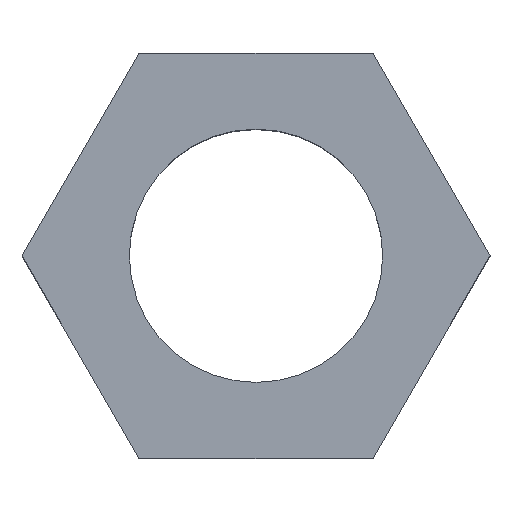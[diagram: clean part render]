
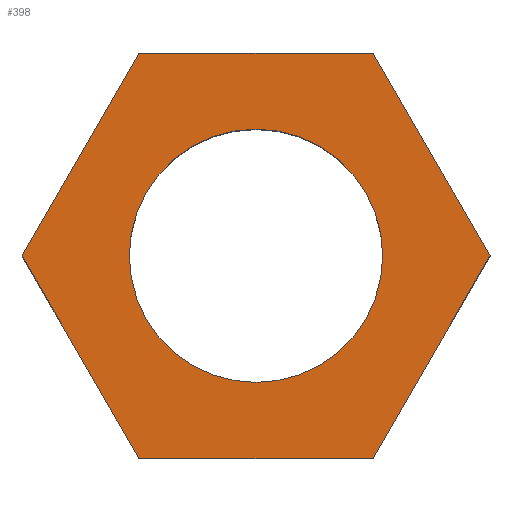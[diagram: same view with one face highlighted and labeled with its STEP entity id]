
A CAD part, top view. The second image highlights one B-rep face of the part: STEP entity #398.
In plain terms, the highlighted planar face has unit normal (0, 0, 1).
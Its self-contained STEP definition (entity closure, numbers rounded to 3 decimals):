
#24 = VERTEX_POINT('',#25);
#25 = CARTESIAN_POINT('',(4.619,0.,5.));
#32 = PLANE('',#33);
#33 = AXIS2_PLACEMENT_3D('',#34,#35,#36);
#34 = CARTESIAN_POINT('',(4.619,0.,0.));
#35 = DIRECTION('',(-0.866,-0.5,0.));
#36 = DIRECTION('',(-0.5,0.866,0.));
#44 = PLANE('',#45);
#45 = AXIS2_PLACEMENT_3D('',#46,#47,#48);
#46 = CARTESIAN_POINT('',(2.309,-4.,0.));
#47 = DIRECTION('',(-0.866,0.5,0.));
#48 = DIRECTION('',(0.5,0.866,0.));
#56 = EDGE_CURVE('',#24,#57,#59,.T.);
#57 = VERTEX_POINT('',#58);
#58 = CARTESIAN_POINT('',(2.309,4.,5.));
#59 = SURFACE_CURVE('',#60,(#64,#71),.PCURVE_S1.);
#60 = LINE('',#61,#62);
#61 = CARTESIAN_POINT('',(4.619,0.,5.));
#62 = VECTOR('',#63,1.);
#63 = DIRECTION('',(-0.5,0.866,0.));
#64 = PCURVE('',#32,#65);
#65 = DEFINITIONAL_REPRESENTATION('',(#66),#70);
#66 = LINE('',#67,#68);
#67 = CARTESIAN_POINT('',(0.,-5.));
#68 = VECTOR('',#69,1.);
#69 = DIRECTION('',(1.,0.));
#70 = ( GEOMETRIC_REPRESENTATION_CONTEXT(2) 
PARAMETRIC_REPRESENTATION_CONTEXT() REPRESENTATION_CONTEXT('2D SPACE',''
  ) );
#71 = PCURVE('',#72,#77);
#72 = PLANE('',#73);
#73 = AXIS2_PLACEMENT_3D('',#74,#75,#76);
#74 = CARTESIAN_POINT('',(0.,0.,5.));
#75 = DIRECTION('',(0.,0.,1.));
#76 = DIRECTION('',(1.,0.,-0.));
#77 = DEFINITIONAL_REPRESENTATION('',(#78),#82);
#78 = LINE('',#79,#80);
#79 = CARTESIAN_POINT('',(4.619,0.));
#80 = VECTOR('',#81,1.);
#81 = DIRECTION('',(-0.5,0.866));
#82 = ( GEOMETRIC_REPRESENTATION_CONTEXT(2) 
PARAMETRIC_REPRESENTATION_CONTEXT() REPRESENTATION_CONTEXT('2D SPACE',''
  ) );
#100 = PLANE('',#101);
#101 = AXIS2_PLACEMENT_3D('',#102,#103,#104);
#102 = CARTESIAN_POINT('',(2.309,4.,0.));
#103 = DIRECTION('',(0.,-1.,0.));
#104 = DIRECTION('',(-1.,0.,0.));
#144 = VERTEX_POINT('',#145);
#145 = CARTESIAN_POINT('',(2.309,-4.,5.));
#159 = PLANE('',#160);
#160 = AXIS2_PLACEMENT_3D('',#161,#162,#163);
#161 = CARTESIAN_POINT('',(-2.309,-4.,0.));
#162 = DIRECTION('',(0.,1.,0.));
#163 = DIRECTION('',(1.,0.,0.));
#171 = EDGE_CURVE('',#144,#24,#172,.T.);
#172 = SURFACE_CURVE('',#173,(#177,#184),.PCURVE_S1.);
#173 = LINE('',#174,#175);
#174 = CARTESIAN_POINT('',(2.309,-4.,5.));
#175 = VECTOR('',#176,1.);
#176 = DIRECTION('',(0.5,0.866,0.));
#177 = PCURVE('',#44,#178);
#178 = DEFINITIONAL_REPRESENTATION('',(#179),#183);
#179 = LINE('',#180,#181);
#180 = CARTESIAN_POINT('',(0.,-5.));
#181 = VECTOR('',#182,1.);
#182 = DIRECTION('',(1.,0.));
#183 = ( GEOMETRIC_REPRESENTATION_CONTEXT(2) 
PARAMETRIC_REPRESENTATION_CONTEXT() REPRESENTATION_CONTEXT('2D SPACE',''
  ) );
#184 = PCURVE('',#72,#185);
#185 = DEFINITIONAL_REPRESENTATION('',(#186),#190);
#186 = LINE('',#187,#188);
#187 = CARTESIAN_POINT('',(2.309,-4.));
#188 = VECTOR('',#189,1.);
#189 = DIRECTION('',(0.5,0.866));
#190 = ( GEOMETRIC_REPRESENTATION_CONTEXT(2) 
PARAMETRIC_REPRESENTATION_CONTEXT() REPRESENTATION_CONTEXT('2D SPACE',''
  ) );
#218 = EDGE_CURVE('',#57,#219,#221,.T.);
#219 = VERTEX_POINT('',#220);
#220 = CARTESIAN_POINT('',(-2.309,4.,5.));
#221 = SURFACE_CURVE('',#222,(#226,#233),.PCURVE_S1.);
#222 = LINE('',#223,#224);
#223 = CARTESIAN_POINT('',(2.309,4.,5.));
#224 = VECTOR('',#225,1.);
#225 = DIRECTION('',(-1.,0.,0.));
#226 = PCURVE('',#100,#227);
#227 = DEFINITIONAL_REPRESENTATION('',(#228),#232);
#228 = LINE('',#229,#230);
#229 = CARTESIAN_POINT('',(0.,-5.));
#230 = VECTOR('',#231,1.);
#231 = DIRECTION('',(1.,0.));
#232 = ( GEOMETRIC_REPRESENTATION_CONTEXT(2) 
PARAMETRIC_REPRESENTATION_CONTEXT() REPRESENTATION_CONTEXT('2D SPACE',''
  ) );
#233 = PCURVE('',#72,#234);
#234 = DEFINITIONAL_REPRESENTATION('',(#235),#239);
#235 = LINE('',#236,#237);
#236 = CARTESIAN_POINT('',(2.309,4.));
#237 = VECTOR('',#238,1.);
#238 = DIRECTION('',(-1.,0.));
#239 = ( GEOMETRIC_REPRESENTATION_CONTEXT(2) 
PARAMETRIC_REPRESENTATION_CONTEXT() REPRESENTATION_CONTEXT('2D SPACE',''
  ) );
#257 = PLANE('',#258);
#258 = AXIS2_PLACEMENT_3D('',#259,#260,#261);
#259 = CARTESIAN_POINT('',(-2.309,4.,0.));
#260 = DIRECTION('',(0.866,-0.5,0.));
#261 = DIRECTION('',(-0.5,-0.866,0.));
#334 = PLANE('',#335);
#335 = AXIS2_PLACEMENT_3D('',#336,#337,#338);
#336 = CARTESIAN_POINT('',(-4.619,0.,0.));
#337 = DIRECTION('',(0.866,0.5,-0.));
#338 = DIRECTION('',(0.5,-0.866,0.));
#387 = CYLINDRICAL_SURFACE('',#388,2.5);
#388 = AXIS2_PLACEMENT_3D('',#389,#390,#391);
#389 = CARTESIAN_POINT('',(0.,0.,-1.));
#390 = DIRECTION('',(0.,0.,1.));
#391 = DIRECTION('',(1.,0.,-0.));
#398 = ADVANCED_FACE('',(#399,#471),#72,.T.);
#399 = FACE_BOUND('',#400,.T.);
#400 = EDGE_LOOP('',(#401,#402,#403,#426,#449,#470));
#401 = ORIENTED_EDGE('',*,*,#56,.T.);
#402 = ORIENTED_EDGE('',*,*,#218,.T.);
#403 = ORIENTED_EDGE('',*,*,#404,.T.);
#404 = EDGE_CURVE('',#219,#405,#407,.T.);
#405 = VERTEX_POINT('',#406);
#406 = CARTESIAN_POINT('',(-4.619,0.,5.));
#407 = SURFACE_CURVE('',#408,(#412,#419),.PCURVE_S1.);
#408 = LINE('',#409,#410);
#409 = CARTESIAN_POINT('',(-2.309,4.,5.));
#410 = VECTOR('',#411,1.);
#411 = DIRECTION('',(-0.5,-0.866,0.));
#412 = PCURVE('',#72,#413);
#413 = DEFINITIONAL_REPRESENTATION('',(#414),#418);
#414 = LINE('',#415,#416);
#415 = CARTESIAN_POINT('',(-2.309,4.));
#416 = VECTOR('',#417,1.);
#417 = DIRECTION('',(-0.5,-0.866));
#418 = ( GEOMETRIC_REPRESENTATION_CONTEXT(2) 
PARAMETRIC_REPRESENTATION_CONTEXT() REPRESENTATION_CONTEXT('2D SPACE',''
  ) );
#419 = PCURVE('',#257,#420);
#420 = DEFINITIONAL_REPRESENTATION('',(#421),#425);
#421 = LINE('',#422,#423);
#422 = CARTESIAN_POINT('',(0.,-5.));
#423 = VECTOR('',#424,1.);
#424 = DIRECTION('',(1.,0.));
#425 = ( GEOMETRIC_REPRESENTATION_CONTEXT(2) 
PARAMETRIC_REPRESENTATION_CONTEXT() REPRESENTATION_CONTEXT('2D SPACE',''
  ) );
#426 = ORIENTED_EDGE('',*,*,#427,.T.);
#427 = EDGE_CURVE('',#405,#428,#430,.T.);
#428 = VERTEX_POINT('',#429);
#429 = CARTESIAN_POINT('',(-2.309,-4.,5.));
#430 = SURFACE_CURVE('',#431,(#435,#442),.PCURVE_S1.);
#431 = LINE('',#432,#433);
#432 = CARTESIAN_POINT('',(-4.619,0.,5.));
#433 = VECTOR('',#434,1.);
#434 = DIRECTION('',(0.5,-0.866,0.));
#435 = PCURVE('',#72,#436);
#436 = DEFINITIONAL_REPRESENTATION('',(#437),#441);
#437 = LINE('',#438,#439);
#438 = CARTESIAN_POINT('',(-4.619,0.));
#439 = VECTOR('',#440,1.);
#440 = DIRECTION('',(0.5,-0.866));
#441 = ( GEOMETRIC_REPRESENTATION_CONTEXT(2) 
PARAMETRIC_REPRESENTATION_CONTEXT() REPRESENTATION_CONTEXT('2D SPACE',''
  ) );
#442 = PCURVE('',#334,#443);
#443 = DEFINITIONAL_REPRESENTATION('',(#444),#448);
#444 = LINE('',#445,#446);
#445 = CARTESIAN_POINT('',(0.,-5.));
#446 = VECTOR('',#447,1.);
#447 = DIRECTION('',(1.,0.));
#448 = ( GEOMETRIC_REPRESENTATION_CONTEXT(2) 
PARAMETRIC_REPRESENTATION_CONTEXT() REPRESENTATION_CONTEXT('2D SPACE',''
  ) );
#449 = ORIENTED_EDGE('',*,*,#450,.T.);
#450 = EDGE_CURVE('',#428,#144,#451,.T.);
#451 = SURFACE_CURVE('',#452,(#456,#463),.PCURVE_S1.);
#452 = LINE('',#453,#454);
#453 = CARTESIAN_POINT('',(-2.309,-4.,5.));
#454 = VECTOR('',#455,1.);
#455 = DIRECTION('',(1.,0.,0.));
#456 = PCURVE('',#72,#457);
#457 = DEFINITIONAL_REPRESENTATION('',(#458),#462);
#458 = LINE('',#459,#460);
#459 = CARTESIAN_POINT('',(-2.309,-4.));
#460 = VECTOR('',#461,1.);
#461 = DIRECTION('',(1.,0.));
#462 = ( GEOMETRIC_REPRESENTATION_CONTEXT(2) 
PARAMETRIC_REPRESENTATION_CONTEXT() REPRESENTATION_CONTEXT('2D SPACE',''
  ) );
#463 = PCURVE('',#159,#464);
#464 = DEFINITIONAL_REPRESENTATION('',(#465),#469);
#465 = LINE('',#466,#467);
#466 = CARTESIAN_POINT('',(0.,-5.));
#467 = VECTOR('',#468,1.);
#468 = DIRECTION('',(1.,0.));
#469 = ( GEOMETRIC_REPRESENTATION_CONTEXT(2) 
PARAMETRIC_REPRESENTATION_CONTEXT() REPRESENTATION_CONTEXT('2D SPACE',''
  ) );
#470 = ORIENTED_EDGE('',*,*,#171,.T.);
#471 = FACE_BOUND('',#472,.T.);
#472 = EDGE_LOOP('',(#473));
#473 = ORIENTED_EDGE('',*,*,#474,.F.);
#474 = EDGE_CURVE('',#475,#475,#477,.T.);
#475 = VERTEX_POINT('',#476);
#476 = CARTESIAN_POINT('',(2.5,0.,5.));
#477 = SURFACE_CURVE('',#478,(#483,#490),.PCURVE_S1.);
#478 = CIRCLE('',#479,2.5);
#479 = AXIS2_PLACEMENT_3D('',#480,#481,#482);
#480 = CARTESIAN_POINT('',(0.,0.,5.));
#481 = DIRECTION('',(0.,0.,1.));
#482 = DIRECTION('',(1.,0.,-0.));
#483 = PCURVE('',#72,#484);
#484 = DEFINITIONAL_REPRESENTATION('',(#485),#489);
#485 = CIRCLE('',#486,2.5);
#486 = AXIS2_PLACEMENT_2D('',#487,#488);
#487 = CARTESIAN_POINT('',(0.,0.));
#488 = DIRECTION('',(1.,0.));
#489 = ( GEOMETRIC_REPRESENTATION_CONTEXT(2) 
PARAMETRIC_REPRESENTATION_CONTEXT() REPRESENTATION_CONTEXT('2D SPACE',''
  ) );
#490 = PCURVE('',#387,#491);
#491 = DEFINITIONAL_REPRESENTATION('',(#492),#496);
#492 = LINE('',#493,#494);
#493 = CARTESIAN_POINT('',(0.,6.));
#494 = VECTOR('',#495,1.);
#495 = DIRECTION('',(1.,0.));
#496 = ( GEOMETRIC_REPRESENTATION_CONTEXT(2) 
PARAMETRIC_REPRESENTATION_CONTEXT() REPRESENTATION_CONTEXT('2D SPACE',''
  ) );
